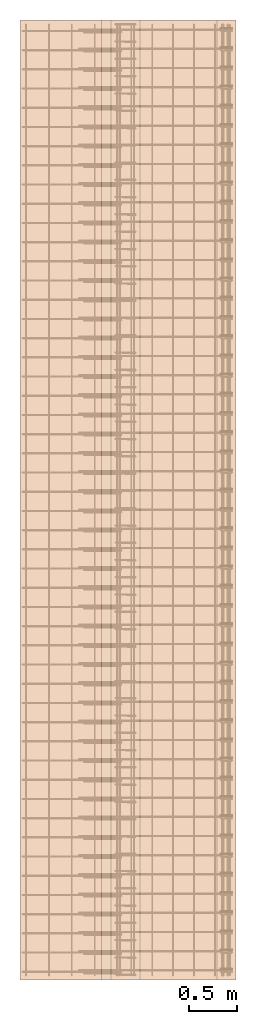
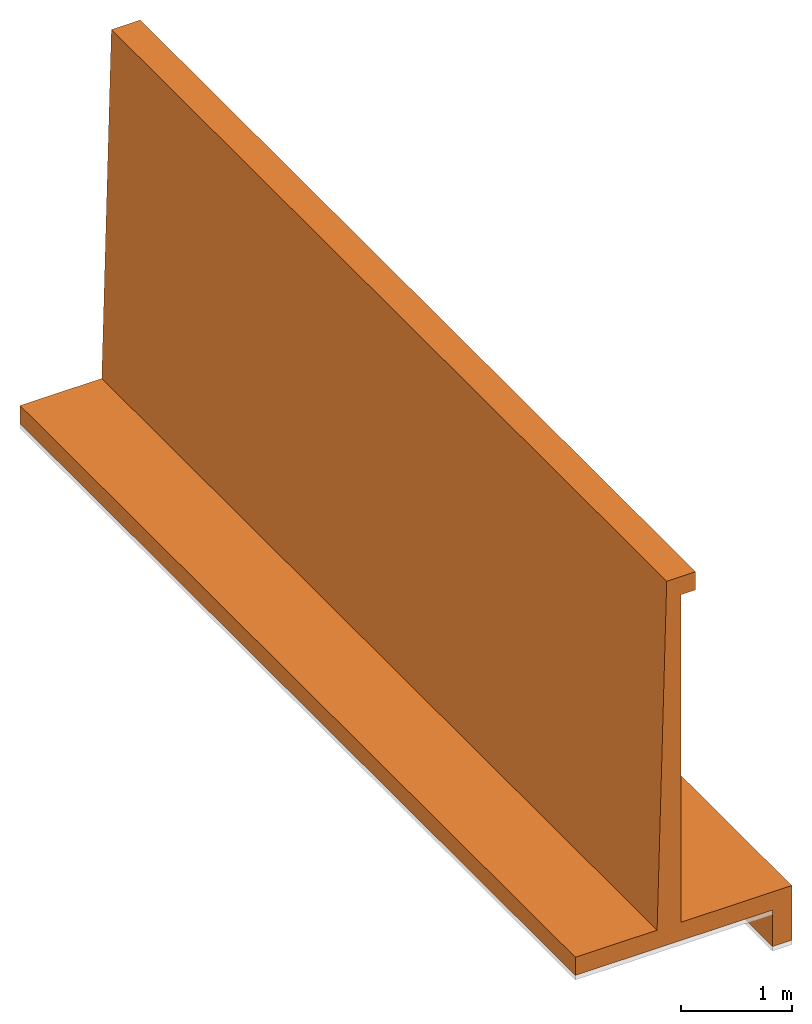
# One storey, part 4 of 4: 1 proxy.
"""IFC2X3 building model written with IfcOpenShell, lengths in millimetres."""

from ifc_helpers import new_model, entity, si_unit, converted_unit, frame, origin, origin_with_axes, place, context, subcontext, project, spatial, faceted_brep, element, save


model = new_model("IFC2X3")

# Units and contexts
model_context = context("Model", 3, precision=1e-05, world=origin())
plan_context = context("Plan", 3, precision=1e-05, world=origin())
body_context = subcontext(model_context, "Body", "Model", "MODEL_VIEW")
ifc_project = project(units=[si_unit("LENGTHUNIT", "METRE", prefix="MILLI"), converted_unit("PLANEANGLEUNIT", "DEGREE", entity("IfcPlaneAngleMeasure", 0.0174532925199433), si_unit("PLANEANGLEUNIT", "RADIAN"), dimensions=[0, 0, 0, 0, 0, 0, 0]), si_unit("AREAUNIT", "SQUARE_METRE"), si_unit("VOLUMEUNIT", "CUBIC_METRE")], contexts=[model_context, plan_context])

# Site, building, storey
site_placement = place(None, origin())
site = spatial("IfcSite", under=ifc_project, at=site_placement, Name="Leçon 3 : Ferraillage avancé", CompositionType="ELEMENT")
building_placement = place(site_placement, origin_with_axes())
building = spatial("IfcBuilding", under=site, at=building_placement, Name="01 soutènement", CompositionType="COMPLEX")
storey_placement = place(building_placement, origin_with_axes())
storey = spatial("IfcBuildingStorey", under=building, at=storey_placement, Name="corrigé", CompositionType="ELEMENT")

# Proxy
proxy_placement = place(storey_placement, frame((-21230.52127367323, 6725.393332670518, -400.010000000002), z_axis=(0.0, 0.0, 1.0), x_axis=(1.0, 0.0, 0.0)))
element("IfcBuildingElementProxy", 1, at=proxy_placement, inside=storey, Name="3D Element", context=body_context, shape_type="Brep", body=[
    faceted_brep([(0.01000000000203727, 0.01000000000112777, 400.010000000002), (0.00999999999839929, 10000.01, 400.0100000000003), (0.00999999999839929, 10000.01, 600.0100000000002), (0.01000000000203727, 0.01000000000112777, 600.010000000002), (0.01000000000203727, 0.01000000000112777, 600.010000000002), (0.00999999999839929, 10000.01, 600.0100000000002), (850.0099999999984, 10000.01, 600.0100000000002), (850.0099999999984, 0.01000000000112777, 600.010000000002), (850.0099999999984, 0.01000000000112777, 600.010000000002), (850.0099999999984, 10000.01, 600.0100000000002), (950.0099999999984, 10000.01, 4400.009999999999), (950.0099999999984, 0.01000000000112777, 4400.010000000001), (950.0099999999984, 0.01000000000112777, 4400.010000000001), (950.0099999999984, 10000.01, 4400.009999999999), (1250.009999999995, 10000.01, 4400.009999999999), (1250.010000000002, 0.01000000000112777, 4400.010000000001), (1250.010000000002, 0.01000000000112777, 4400.010000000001), (1250.009999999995, 10000.01, 4400.009999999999), (1250.009999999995, 10000.01, 4200.009999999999), (1250.010000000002, 0.01000000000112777, 4200.010000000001), (1250.010000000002, 0.01000000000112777, 4200.010000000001), (1250.009999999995, 10000.01, 4200.009999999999), (1100.009999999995, 10000.01, 4200.009999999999), (1100.010000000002, 0.01000000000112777, 4200.010000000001), (1100.010000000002, 0.01000000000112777, 4200.010000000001), (1100.009999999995, 10000.01, 4200.009999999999), (1100.009999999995, 10000.01, 600.0100000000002), (1100.010000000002, 0.01000000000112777, 600.010000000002), (1100.010000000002, 0.01000000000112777, 600.010000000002), (1100.009999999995, 10000.01, 600.0100000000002), (2250.009999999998, 10000.01, 600.0100000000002), (2250.009999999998, 0.01000000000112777, 600.010000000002), (2250.009999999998, 0.01000000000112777, 600.010000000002), (2250.009999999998, 10000.01, 600.0100000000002), (2250.009999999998, 10000.01, 0.01000000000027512), (2250.009999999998, 0.01000000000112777, 0.01000000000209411), (2250.009999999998, 0.01000000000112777, 0.01000000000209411), (2250.009999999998, 10000.01, 0.01000000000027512), (2050.009999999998, 10000.01, 0.01000000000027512), (2050.009999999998, 0.01000000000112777, 0.01000000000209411), (2050.009999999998, 0.01000000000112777, 0.01000000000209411), (2050.009999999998, 10000.01, 0.01000000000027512), (2050.009999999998, 10000.01, 400.0100000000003), (2050.009999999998, 0.01000000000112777, 400.010000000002), (2050.009999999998, 0.01000000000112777, 400.010000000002), (2050.009999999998, 10000.01, 400.0100000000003), (0.00999999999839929, 10000.01, 400.0100000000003), (0.01000000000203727, 0.01000000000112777, 400.010000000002), (0.01000000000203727, 0.01000000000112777, 400.010000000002), (0.01000000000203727, 0.01000000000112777, 600.010000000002), (850.0099999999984, 0.01000000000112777, 600.010000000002), (950.0099999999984, 0.01000000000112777, 4400.010000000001), (1250.010000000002, 0.01000000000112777, 4400.010000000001), (1250.010000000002, 0.01000000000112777, 4200.010000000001), (1100.010000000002, 0.01000000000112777, 4200.010000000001), (1100.010000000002, 0.01000000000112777, 600.010000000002), (2250.009999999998, 0.01000000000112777, 600.010000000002), (2250.009999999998, 0.01000000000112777, 0.01000000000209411), (2050.009999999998, 0.01000000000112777, 0.01000000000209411), (2050.009999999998, 0.01000000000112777, 400.010000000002), (0.00999999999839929, 10000.01, 400.0100000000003), (2050.009999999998, 10000.01, 400.0100000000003), (2050.009999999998, 10000.01, 0.01000000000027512), (2250.009999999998, 10000.01, 0.01000000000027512), (2250.009999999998, 10000.01, 600.0100000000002), (1100.009999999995, 10000.01, 600.0100000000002), (1100.009999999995, 10000.01, 4200.009999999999), (1250.009999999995, 10000.01, 4200.009999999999), (1250.009999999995, 10000.01, 4400.009999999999), (950.0099999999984, 10000.01, 4400.009999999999), (850.0099999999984, 10000.01, 600.0100000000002), (0.00999999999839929, 10000.01, 600.0100000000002)], [[[0, 1, 2, 3]], [[4, 5, 6, 7]], [[8, 9, 10, 11]], [[12, 13, 14, 15]], [[16, 17, 18, 19]], [[20, 21, 22, 23]], [[24, 25, 26, 27]], [[28, 29, 30, 31]], [[32, 33, 34, 35]], [[36, 37, 38, 39]], [[40, 41, 42, 43]], [[44, 45, 46, 47]], [[48, 49, 50, 51, 52, 53, 54, 55, 56, 57, 58, 59]], [[60, 61, 62, 63, 64, 65, 66, 67, 68, 69, 70, 71]]], orient=[[False], [False], [False], [False], [False], [False], [False], [False], [False], [False], [False], [False], [False], [False]]),
])

save(model, "model.ifc")
